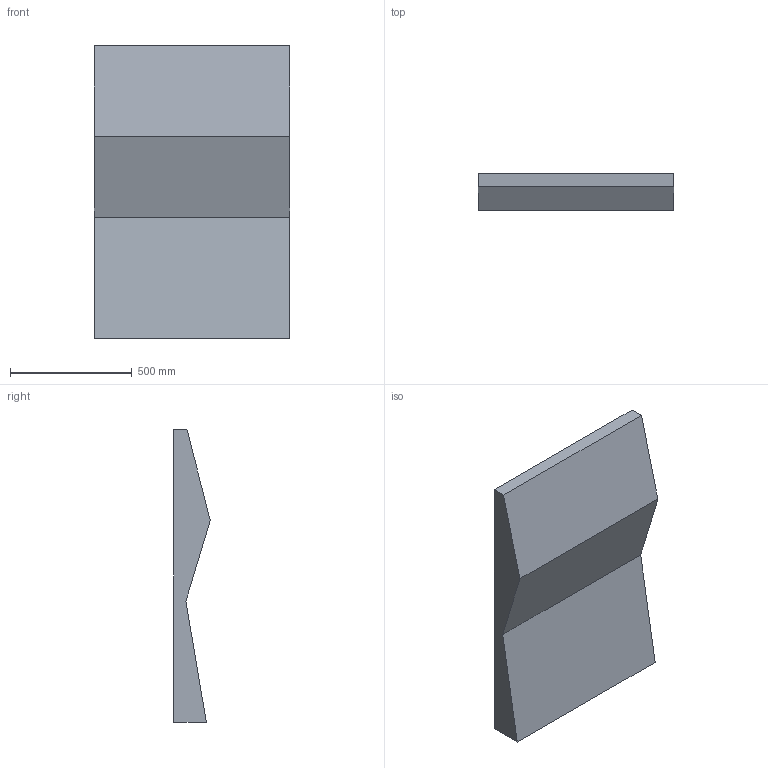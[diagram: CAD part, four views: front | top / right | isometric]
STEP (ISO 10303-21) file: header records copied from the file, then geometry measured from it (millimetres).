
FILE_DESCRIPTION(/* description */ (''),/* implementation_level */ '2;1');
FILE_NAME(/* name */ 'Sculpt Art - Face, Big',/* time_stamp */ '2022-02-16T14:26:34+01:00',/* author */ (''),/* organization */ (''),/* preprocessor_version */ 'ST-DEVELOPER v15',/* originating_system */ '',/* authorisation */ '');
FILE_SCHEMA (('AUTOMOTIVE_DESIGN'));
Length unit declared in the file: millimetre
Products named in the file (1): Document
Bounding box: 800 x 150 x 1200 mm (x, y, z)
Volume: 93502461.8 mm3; surface area: 2331611 mm2
Topology: 1 solids, 1 shells, 8 faces, 18 edges, 12 vertices
Faces by surface type: plane 8
Entity records: 215 total; most frequent: CARTESIAN_POINT 58, ORIENTED_EDGE 36, EDGE_CURVE 18, B_SPLINE_CURVE_WITH_KNOTS 18, VERTEX_POINT 12, DIRECTION 12, AXIS2_PLACEMENT_3D 10, ADVANCED_FACE 8
